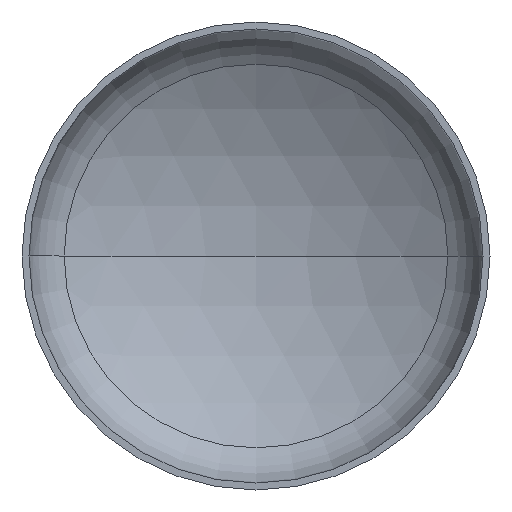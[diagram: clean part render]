
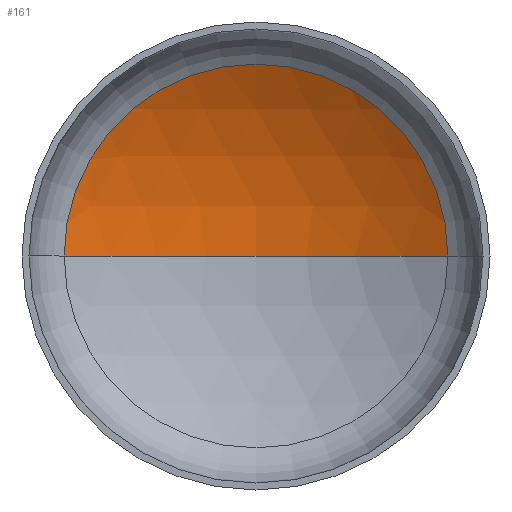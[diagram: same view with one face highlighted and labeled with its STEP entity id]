
A CAD part, front view. The second image highlights one B-rep face of the part: STEP entity #161.
In plain terms, the highlighted spherical face has radius 6000 mm.
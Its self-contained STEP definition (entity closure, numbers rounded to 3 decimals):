
#16 = ORIENTED_EDGE ( 'NONE', *, *, #86, .T. ) ;
#19 = VERTEX_POINT ( 'NONE', #225 ) ;
#20 = CARTESIAN_POINT ( 'NONE',  ( 0., -4085.377, 0. ) ) ;
#32 = AXIS2_PLACEMENT_3D ( 'NONE', #20, #103, #102 ) ;
#45 = AXIS2_PLACEMENT_3D ( 'NONE', #191, #195, #146 ) ;
#48 = AXIS2_PLACEMENT_3D ( 'NONE', #170, #182, #177 ) ;
#52 = AXIS2_PLACEMENT_3D ( 'NONE', #173, #174, #179 ) ;
#65 = VERTEX_POINT ( 'NONE', #203 ) ;
#85 = EDGE_CURVE ( 'NONE', #370, #65, #181, .T. ) ;
#86 = EDGE_CURVE ( 'NONE', #19, #370, #352, .T. ) ;
#87 = EDGE_CURVE ( 'NONE', #19, #65, #238, .T. ) ;
#102 = DIRECTION ( 'NONE',  ( -1., 0., 0. ) ) ;
#103 = DIRECTION ( 'NONE',  ( 0., 0., -1. ) ) ;
#113 = EDGE_LOOP ( 'NONE', ( #378, #16, #199 ) ) ;
#146 = DIRECTION ( 'NONE',  ( 1., 0., 0. ) ) ;
#161 = ADVANCED_FACE ( 'NONE', ( #336 ), #400, .F. ) ;
#170 = CARTESIAN_POINT ( 'NONE',  ( 0., -4085.377, 0. ) ) ;
#173 = CARTESIAN_POINT ( 'NONE',  ( 0., 1066.793, 0. ) ) ;
#174 = DIRECTION ( 'NONE',  ( 0., -1., 0. ) ) ;
#177 = DIRECTION ( 'NONE',  ( -1., 0., 0. ) ) ;
#179 = DIRECTION ( 'NONE',  ( 1., 0., 0. ) ) ;
#181 = CIRCLE ( 'NONE', #52, 3074.923 ) ;
#182 = DIRECTION ( 'NONE',  ( 0., 0., -1. ) ) ;
#191 = CARTESIAN_POINT ( 'NONE',  ( 0., -4085.377, 0. ) ) ;
#195 = DIRECTION ( 'NONE',  ( 0., 0., 1. ) ) ;
#199 = ORIENTED_EDGE ( 'NONE', *, *, #85, .T. ) ;
#203 = CARTESIAN_POINT ( 'NONE',  ( -3074.923, 1066.793, 0. ) ) ;
#225 = CARTESIAN_POINT ( 'NONE',  ( 0., 1914.623, 0. ) ) ;
#237 = CARTESIAN_POINT ( 'NONE',  ( 3074.923, 1066.793, 0. ) ) ;
#238 = CIRCLE ( 'NONE', #45, 6000. ) ;
#336 = FACE_OUTER_BOUND ( 'NONE', #113, .T. ) ;
#352 = CIRCLE ( 'NONE', #48, 6000. ) ;
#370 = VERTEX_POINT ( 'NONE', #237 ) ;
#378 = ORIENTED_EDGE ( 'NONE', *, *, #87, .F. ) ;
#400 = SPHERICAL_SURFACE ( 'NONE', #32, 6000. ) ;
